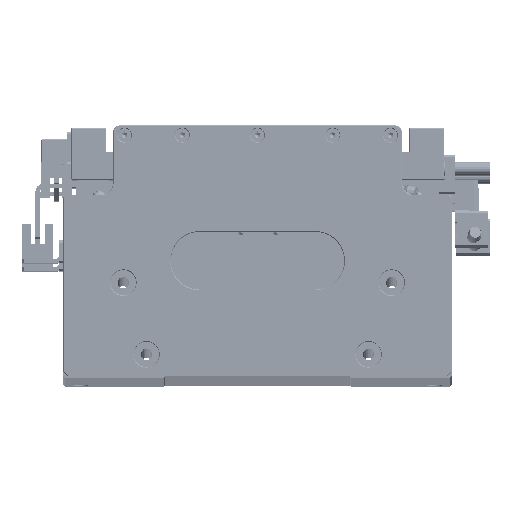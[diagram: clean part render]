
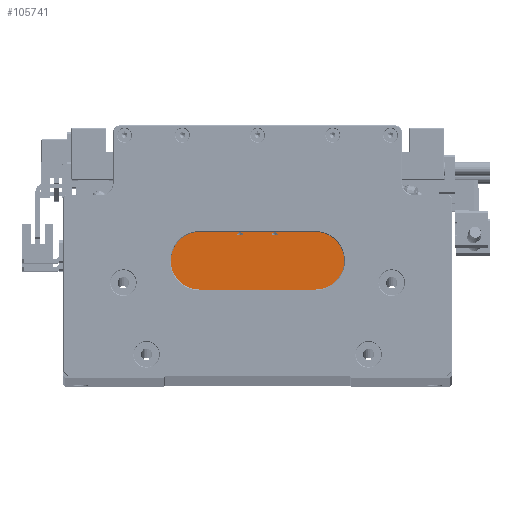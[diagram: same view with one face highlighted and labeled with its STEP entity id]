
A CAD part, top view. The second image highlights one B-rep face of the part: STEP entity #105741.
In plain terms, the highlighted planar face has unit normal (0, 0, 1).
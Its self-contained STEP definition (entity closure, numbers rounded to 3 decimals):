
#328 = CARTESIAN_POINT ( 'NONE',  ( 0., 69.2, 90. ) ) ;
#475 = CARTESIAN_POINT ( 'NONE',  ( 33.5, 69.2, 90. ) ) ;
#1834 = FACE_BOUND ( 'NONE', #94077, .T. ) ;
#4147 = EDGE_CURVE ( 'NONE', #139187, #123437, #123882, .T. ) ;
#6133 = DIRECTION ( 'NONE',  ( 1., 0., 0. ) ) ;
#7542 = VERTEX_POINT ( 'NONE', #88583 ) ;
#9256 = VECTOR ( 'NONE', #117175, 1000. ) ;
#10233 = DIRECTION ( 'NONE',  ( -1., 0., 0. ) ) ;
#16313 = CARTESIAN_POINT ( 'NONE',  ( 7.5, 61.2, 90. ) ) ;
#17630 = ORIENTED_EDGE ( 'NONE', *, *, #31696, .T. ) ;
#17658 = LINE ( 'NONE', #89285, #37036 ) ;
#20052 = AXIS2_PLACEMENT_3D ( 'NONE', #328, #102388, #34410 ) ;
#20851 = EDGE_CURVE ( 'NONE', #127728, #7542, #70960, .T. ) ;
#21134 = CARTESIAN_POINT ( 'NONE',  ( 45., 61.2, 90. ) ) ;
#21248 = CARTESIAN_POINT ( 'NONE',  ( -6.25, 61.2, 90. ) ) ;
#21626 = CARTESIAN_POINT ( 'NONE',  ( 0., 61.2, 90. ) ) ;
#22085 = CARTESIAN_POINT ( 'NONE',  ( 33.5, 69., 90. ) ) ;
#23268 = EDGE_CURVE ( 'NONE', #70033, #128758, #32887, .T. ) ;
#23456 = DIRECTION ( 'NONE',  ( -1., 0., 0. ) ) ;
#24803 = LINE ( 'NONE', #127048, #108095 ) ;
#26495 = CARTESIAN_POINT ( 'NONE',  ( -45., 61.2, 90. ) ) ;
#27679 = DIRECTION ( 'NONE',  ( 1., 0., 0. ) ) ;
#27821 = CARTESIAN_POINT ( 'NONE',  ( -8.75, 61.2, 90. ) ) ;
#30103 = VERTEX_POINT ( 'NONE', #111572 ) ;
#31696 = EDGE_CURVE ( 'NONE', #98603, #120127, #63473, .T. ) ;
#32363 = CIRCLE ( 'NONE', #61661, 1.25 ) ;
#32887 = LINE ( 'NONE', #145479, #63027 ) ;
#33817 = CARTESIAN_POINT ( 'NONE',  ( -33.5, 61.2, 90. ) ) ;
#34410 = DIRECTION ( 'NONE',  ( 1., 0., 0. ) ) ;
#34825 = ORIENTED_EDGE ( 'NONE', *, *, #88745, .F. ) ;
#37036 = VECTOR ( 'NONE', #112059, 1000. ) ;
#39309 = EDGE_LOOP ( 'NONE', ( #81133, #58109 ) ) ;
#39384 = LINE ( 'NONE', #26495, #9256 ) ;
#39894 = CARTESIAN_POINT ( 'NONE',  ( -45., 61.2, 90. ) ) ;
#40748 = CIRCLE ( 'NONE', #93896, 1.25 ) ;
#43720 = LINE ( 'NONE', #116484, #134169 ) ;
#43724 = ORIENTED_EDGE ( 'NONE', *, *, #4147, .F. ) ;
#44474 = CARTESIAN_POINT ( 'NONE',  ( 45., 29., 90. ) ) ;
#48892 = ORIENTED_EDGE ( 'NONE', *, *, #70699, .T. ) ;
#53432 = ORIENTED_EDGE ( 'NONE', *, *, #129592, .T. ) ;
#58109 = ORIENTED_EDGE ( 'NONE', *, *, #115058, .T. ) ;
#58449 = VECTOR ( 'NONE', #102524, 1000. ) ;
#59926 = DIRECTION ( 'NONE',  ( 0., -1., 0. ) ) ;
#60061 = EDGE_CURVE ( 'NONE', #120127, #123437, #24803, .T. ) ;
#61661 = AXIS2_PLACEMENT_3D ( 'NONE', #141809, #73960, #6133 ) ;
#63027 = VECTOR ( 'NONE', #65220, 1000. ) ;
#63473 = LINE ( 'NONE', #21626, #116713 ) ;
#65220 = DIRECTION ( 'NONE',  ( -1., 0., 0. ) ) ;
#68484 = CARTESIAN_POINT ( 'NONE',  ( -45., 29., 90. ) ) ;
#70033 = VERTEX_POINT ( 'NONE', #22085 ) ;
#70699 = EDGE_CURVE ( 'NONE', #30103, #95236, #17658, .T. ) ;
#70960 = LINE ( 'NONE', #111126, #127730 ) ;
#73960 = DIRECTION ( 'NONE',  ( 0., 0., -1. ) ) ;
#81133 = ORIENTED_EDGE ( 'NONE', *, *, #114580, .T. ) ;
#83864 = EDGE_LOOP ( 'NONE', ( #34825, #48892, #53432, #135334, #121848, #17630, #96735, #43724 ) ) ;
#85516 = ORIENTED_EDGE ( 'NONE', *, *, #122930, .T. ) ;
#88583 = CARTESIAN_POINT ( 'NONE',  ( 6.25, 61.2, 90. ) ) ;
#88665 = LINE ( 'NONE', #475, #58449 ) ;
#88745 = EDGE_CURVE ( 'NONE', #30103, #139187, #113101, .T. ) ;
#89285 = CARTESIAN_POINT ( 'NONE',  ( 0., 61.2, 90. ) ) ;
#91523 = DIRECTION ( 'NONE',  ( 0., -1., 0. ) ) ;
#92211 = FACE_BOUND ( 'NONE', #39309, .T. ) ;
#93353 = DIRECTION ( 'NONE',  ( 0., -1., 0. ) ) ;
#93896 = AXIS2_PLACEMENT_3D ( 'NONE', #16313, #95584, #27679 ) ;
#94077 = EDGE_LOOP ( 'NONE', ( #85516, #145668 ) ) ;
#95236 = VERTEX_POINT ( 'NONE', #104541 ) ;
#95584 = DIRECTION ( 'NONE',  ( 0., 0., -1. ) ) ;
#95755 = FACE_OUTER_BOUND ( 'NONE', #83864, .T. ) ;
#96735 = ORIENTED_EDGE ( 'NONE', *, *, #60061, .T. ) ;
#98603 = VERTEX_POINT ( 'NONE', #33817 ) ;
#100257 = DIRECTION ( 'NONE',  ( -1., 0., 0. ) ) ;
#102388 = DIRECTION ( 'NONE',  ( 0., 0., 1. ) ) ;
#102524 = DIRECTION ( 'NONE',  ( 0., 1., 0. ) ) ;
#104007 = VERTEX_POINT ( 'NONE', #27821 ) ;
#104541 = CARTESIAN_POINT ( 'NONE',  ( 33.5, 61.2, 90. ) ) ;
#105741 = ADVANCED_FACE ( 'NONE', ( #95755, #92211, #1834 ), #124664, .T. ) ;
#108095 = VECTOR ( 'NONE', #93353, 1000. ) ;
#110775 = EDGE_CURVE ( 'NONE', #128758, #98603, #43720, .T. ) ;
#111126 = CARTESIAN_POINT ( 'NONE',  ( -45., 61.2, 90. ) ) ;
#111572 = CARTESIAN_POINT ( 'NONE',  ( 45., 61.2, 90. ) ) ;
#112059 = DIRECTION ( 'NONE',  ( -1., 0., 0. ) ) ;
#113101 = LINE ( 'NONE', #21134, #139624 ) ;
#113757 = CARTESIAN_POINT ( 'NONE',  ( 8.75, 61.2, 90. ) ) ;
#114580 = EDGE_CURVE ( 'NONE', #104007, #136434, #32363, .T. ) ;
#115058 = EDGE_CURVE ( 'NONE', #136434, #104007, #39384, .T. ) ;
#116087 = CARTESIAN_POINT ( 'NONE',  ( -45., 29., 90. ) ) ;
#116484 = CARTESIAN_POINT ( 'NONE',  ( -33.5, 69.2, 90. ) ) ;
#116713 = VECTOR ( 'NONE', #10233, 1000. ) ;
#117175 = DIRECTION ( 'NONE',  ( -1., 0., 0. ) ) ;
#120127 = VERTEX_POINT ( 'NONE', #39894 ) ;
#120630 = CARTESIAN_POINT ( 'NONE',  ( -33.5, 69., 90. ) ) ;
#121848 = ORIENTED_EDGE ( 'NONE', *, *, #110775, .T. ) ;
#122930 = EDGE_CURVE ( 'NONE', #7542, #127728, #40748, .T. ) ;
#123437 = VERTEX_POINT ( 'NONE', #116087 ) ;
#123882 = LINE ( 'NONE', #68484, #146792 ) ;
#124664 = PLANE ( 'NONE',  #20052 ) ;
#127048 = CARTESIAN_POINT ( 'NONE',  ( -45., 69.2, 90. ) ) ;
#127728 = VERTEX_POINT ( 'NONE', #113757 ) ;
#127730 = VECTOR ( 'NONE', #100257, 1000. ) ;
#128758 = VERTEX_POINT ( 'NONE', #120630 ) ;
#129592 = EDGE_CURVE ( 'NONE', #95236, #70033, #88665, .T. ) ;
#134169 = VECTOR ( 'NONE', #59926, 1000. ) ;
#135334 = ORIENTED_EDGE ( 'NONE', *, *, #23268, .T. ) ;
#136434 = VERTEX_POINT ( 'NONE', #21248 ) ;
#139187 = VERTEX_POINT ( 'NONE', #44474 ) ;
#139624 = VECTOR ( 'NONE', #91523, 1000. ) ;
#141809 = CARTESIAN_POINT ( 'NONE',  ( -7.5, 61.2, 90. ) ) ;
#145479 = CARTESIAN_POINT ( 'NONE',  ( 0., 69., 90. ) ) ;
#145668 = ORIENTED_EDGE ( 'NONE', *, *, #20851, .T. ) ;
#146792 = VECTOR ( 'NONE', #23456, 1000. ) ;
